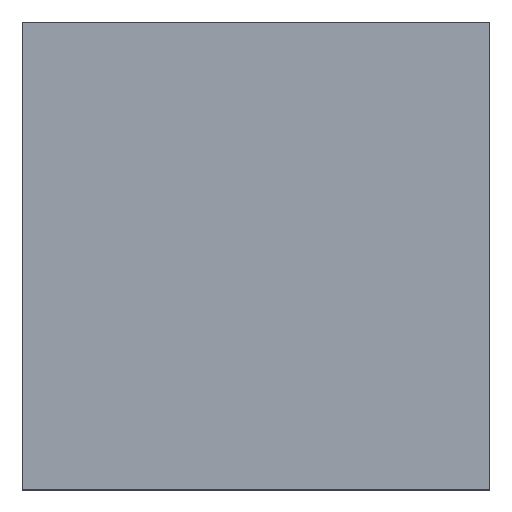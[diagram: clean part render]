
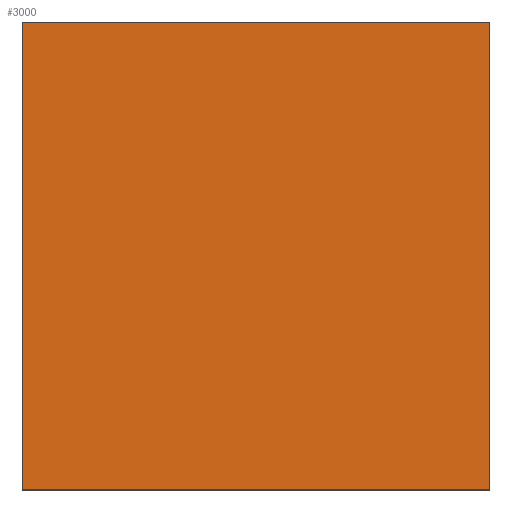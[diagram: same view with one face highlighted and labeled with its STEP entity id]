
A CAD part, top view. The second image highlights one B-rep face of the part: STEP entity #3000.
In plain terms, the highlighted planar face has unit normal (0, 0, 1).
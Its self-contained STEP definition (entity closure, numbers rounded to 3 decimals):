
#120 = CARTESIAN_POINT ('', (15., -15., 8.));
#130 = VERTEX_POINT ('', #120);
#190 = CARTESIAN_POINT ('', (-15., -15., 8.));
#200 = VERTEX_POINT ('', #190);
#210 = CARTESIAN_POINT ('', (-15., -15., 8.));
#220 = CARTESIAN_POINT ('', (-5., -15., 8.));
#230 = CARTESIAN_POINT ('', (5., -15., 8.));
#240 = CARTESIAN_POINT ('', (15., -15., 8.));
#250 = B_SPLINE_CURVE_WITH_KNOTS ('', 3, (#210, #220, #230, #240), .UNSPECIFIED., .F., .U., (4, 4), (0., 30.), .UNSPECIFIED.);
#260 = EDGE_CURVE ('', #200, #130, #250, .T.);
#630 = CARTESIAN_POINT ('', (15., 15., 8.));
#640 = VERTEX_POINT ('', #630);
#700 = CARTESIAN_POINT ('', (15., -15., 8.));
#710 = CARTESIAN_POINT ('', (15., -5., 8.));
#720 = CARTESIAN_POINT ('', (15., 5., 8.));
#730 = CARTESIAN_POINT ('', (15., 15., 8.));
#740 = B_SPLINE_CURVE_WITH_KNOTS ('', 3, (#700, #710, #720, #730), .UNSPECIFIED., .F., .U., (4, 4), (0., 30.), .UNSPECIFIED.);
#750 = EDGE_CURVE ('', #130, #640, #740, .T.);
#1250 = CARTESIAN_POINT ('', (-15., 15., 8.));
#1260 = VERTEX_POINT ('', #1250);
#1320 = CARTESIAN_POINT ('', (15., 15., 8.));
#1330 = CARTESIAN_POINT ('', (5., 15., 8.));
#1340 = CARTESIAN_POINT ('', (-5., 15., 8.));
#1350 = CARTESIAN_POINT ('', (-15., 15., 8.));
#1360 = B_SPLINE_CURVE_WITH_KNOTS ('', 3, (#1320, #1330, #1340, #1350), .UNSPECIFIED., .F., .U., (4, 4), (0., 30.), .UNSPECIFIED.);
#1370 = EDGE_CURVE ('', #640, #1260, #1360, .T.);
#1690 = CARTESIAN_POINT ('', (-15., 15., 8.));
#1700 = CARTESIAN_POINT ('', (-15., 5., 8.));
#1710 = CARTESIAN_POINT ('', (-15., -5., 8.));
#1720 = CARTESIAN_POINT ('', (-15., -15., 8.));
#1730 = B_SPLINE_CURVE_WITH_KNOTS ('', 3, (#1690, #1700, #1710, #1720), .UNSPECIFIED., .F., .U., (4, 4), (0., 30.), .UNSPECIFIED.);
#1740 = EDGE_CURVE ('', #1260, #200, #1730, .T.);
#2890 = ORIENTED_EDGE ('', *, *, #260, .T.);
#2900 = ORIENTED_EDGE ('', *, *, #750, .T.);
#2910 = ORIENTED_EDGE ('', *, *, #1370, .T.);
#2920 = ORIENTED_EDGE ('', *, *, #1740, .T.);
#2930 = EDGE_LOOP ('', (#2890, #2900, #2910, #2920));
#2940 = FACE_OUTER_BOUND ('', #2930, .T.);
#2950 = CARTESIAN_POINT ('', (0., 30.804, 8.));
#2960 = DIRECTION ('', (0., 0., 1.));
#2970 = DIRECTION ('', (-0.707, -0.707, 0.));
#2980 = AXIS2_PLACEMENT_3D ('', #2950, #2960, #2970);
#2990 = PLANE ('', #2980);
#3000 = ADVANCED_FACE ('', (#2940), #2990, .T.);
